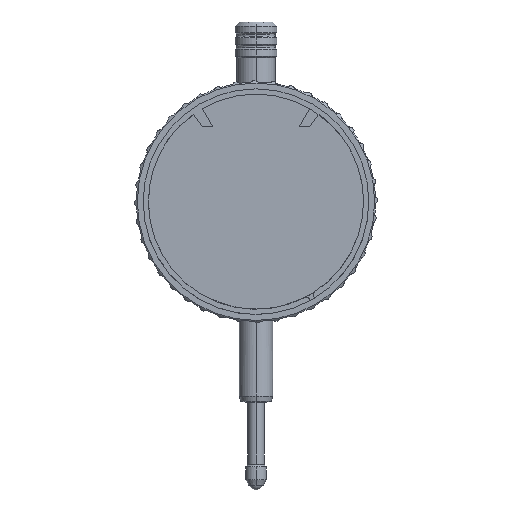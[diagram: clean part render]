
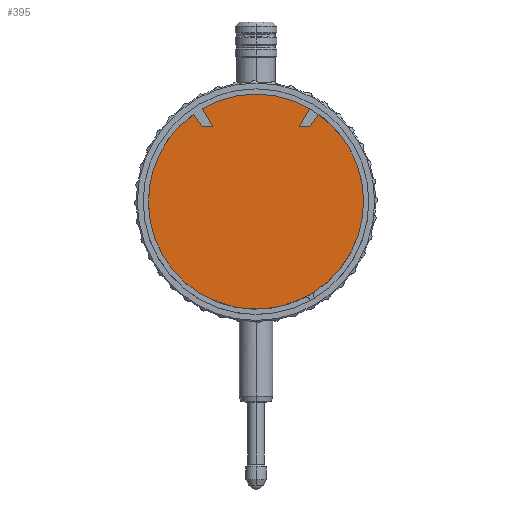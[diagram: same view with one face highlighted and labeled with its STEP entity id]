
A CAD part, front view. The second image highlights one B-rep face of the part: STEP entity #395.
In plain terms, the highlighted planar face has unit normal (0, -1, 0).
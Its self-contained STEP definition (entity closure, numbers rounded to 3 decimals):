
#395=ADVANCED_FACE('',(#1138),#1139,.F.);
#1138=FACE_OUTER_BOUND('',#1935,.T.);
#1139=PLANE('',#1936);
#1935=EDGE_LOOP('',(#5022,#5023,#5024,#5025,#5026,#5027,#5028,#5029,#5030,#5031,#5032,#5033));
#1936=AXIS2_PLACEMENT_3D('',#5034,#5035,#5036);
#5022=ORIENTED_EDGE('',*,*,#5394,.T.);
#5023=ORIENTED_EDGE('',*,*,#6353,.T.);
#5024=ORIENTED_EDGE('',*,*,#6354,.T.);
#5025=ORIENTED_EDGE('',*,*,#6355,.T.);
#5026=ORIENTED_EDGE('',*,*,#5400,.T.);
#5027=ORIENTED_EDGE('',*,*,#5402,.T.);
#5028=ORIENTED_EDGE('',*,*,#6356,.T.);
#5029=ORIENTED_EDGE('',*,*,#6357,.T.);
#5030=ORIENTED_EDGE('',*,*,#6358,.T.);
#5031=ORIENTED_EDGE('',*,*,#6359,.T.);
#5032=ORIENTED_EDGE('',*,*,#6360,.T.);
#5033=ORIENTED_EDGE('',*,*,#5404,.T.);
#5034=CARTESIAN_POINT('',(0.0,-13.8,0.));
#5035=DIRECTION('',(0.0,1.0,0.0));
#5036=DIRECTION('',(-1.0,0.0,0.0));
#5394=EDGE_CURVE('',#6612,#6609,#6613,.T.);
#5400=EDGE_CURVE('',#6618,#6622,#6624,.T.);
#5402=EDGE_CURVE('',#6622,#6625,#6628,.T.);
#5404=EDGE_CURVE('',#6630,#6612,#6631,.T.);
#6353=EDGE_CURVE('',#6609,#8195,#8196,.T.);
#6354=EDGE_CURVE('',#8195,#8197,#8198,.T.);
#6355=EDGE_CURVE('',#8197,#6618,#8199,.T.);
#6356=EDGE_CURVE('',#6625,#8200,#8201,.T.);
#6357=EDGE_CURVE('',#8200,#8202,#8203,.T.);
#6358=EDGE_CURVE('',#8202,#8204,#8205,.T.);
#6359=EDGE_CURVE('',#8204,#8206,#8207,.T.);
#6360=EDGE_CURVE('',#8206,#6630,#8208,.T.);
#6609=VERTEX_POINT('',#8409);
#6612=VERTEX_POINT('',#8413);
#6613=CIRCLE('',#8414,0.875);
#6618=VERTEX_POINT('',#8420);
#6622=VERTEX_POINT('',#8425);
#6624=CIRCLE('',#8428,0.875);
#6625=VERTEX_POINT('',#8429);
#6628=CIRCLE('',#8433,25.75);
#6630=VERTEX_POINT('',#8435);
#6631=CIRCLE('',#8436,25.75);
#8195=VERTEX_POINT('',#13673);
#8196=CIRCLE('',#13674,0.875);
#8197=VERTEX_POINT('',#13675);
#8198=CIRCLE('',#13676,27.0);
#8199=CIRCLE('',#13677,0.875);
#8200=VERTEX_POINT('',#13678);
#8201=CIRCLE('',#13679,25.75);
#8202=VERTEX_POINT('',#13680);
#8203=LINE('',#13681,#13682);
#8204=VERTEX_POINT('',#13683);
#8205=LINE('',#13684,#13685);
#8206=VERTEX_POINT('',#13686);
#8207=LINE('',#13687,#13688);
#8208=CIRCLE('',#13689,25.75);
#8409=CARTESIAN_POINT('',(-13.812,-13.8,-22.723));
#8413=CARTESIAN_POINT('',(-14.091,-13.8,-21.553));
#8414=AXIS2_PLACEMENT_3D('',#13932,#13933,#13934);
#8420=CARTESIAN_POINT('',(-12.772,-13.8,-23.323));
#8425=CARTESIAN_POINT('',(-11.62,-13.8,-22.979));
#8428=AXIS2_PLACEMENT_3D('',#13944,#13945,#13946);
#8429=CARTESIAN_POINT('',(22.3,-13.8,12.875));
#8433=AXIS2_PLACEMENT_3D('',#13948,#13949,#13950);
#8435=CARTESIAN_POINT('',(-22.3,-13.8,-12.875));
#8436=AXIS2_PLACEMENT_3D('',#13954,#13955,#13956);
#13673=CARTESIAN_POINT('',(-14.102,-13.8,-23.025));
#13674=AXIS2_PLACEMENT_3D('',#15045,#15046,#15047);
#13675=CARTESIAN_POINT('',(-12.889,-13.8,-23.725));
#13676=AXIS2_PLACEMENT_3D('',#15048,#15049,#15050);
#13677=AXIS2_PLACEMENT_3D('',#15051,#15052,#15053);
#13678=CARTESIAN_POINT('',(14.979,-13.8,20.945));
#13679=AXIS2_PLACEMENT_3D('',#15054,#15055,#15056);
#13680=CARTESIAN_POINT('',(12.821,-13.8,17.927));
#13681=CARTESIAN_POINT('',(6.95,-13.8,9.718));
#13682=VECTOR('',#15057,1.);
#13683=CARTESIAN_POINT('',(10.35,-13.8,17.927));
#13684=CARTESIAN_POINT('',(5.793,-13.8,17.927));
#13685=VECTOR('',#15058,1.0);
#13686=CARTESIAN_POINT('',(12.875,-13.8,22.3));
#13687=CARTESIAN_POINT('',(5.806,-13.8,10.057));
#13688=VECTOR('',#15059,1.);
#13689=AXIS2_PLACEMENT_3D('',#15060,#15061,#15062);
#13932=CARTESIAN_POINT('',(-14.569,-13.8,-22.285));
#13933=DIRECTION('',(0.0,1.0,0.0));
#13934=DIRECTION('',(0.866,-0.0,-0.5));
#13944=CARTESIAN_POINT('',(-12.015,-13.8,-23.76));
#13945=DIRECTION('',(0.0,1.0,0.0));
#13946=DIRECTION('',(0.866,-0.0,-0.5));
#13948=CARTESIAN_POINT('',(0.,-13.8,0.));
#13949=DIRECTION('',(0.0,-1.0,0.0));
#13950=DIRECTION('',(0.866,0.0,0.5));
#13954=CARTESIAN_POINT('',(0.,-13.8,0.));
#13955=DIRECTION('',(0.0,-1.0,0.0));
#13956=DIRECTION('',(0.866,0.0,0.5));
#15045=CARTESIAN_POINT('',(-14.569,-13.8,-22.285));
#15046=DIRECTION('',(0.0,1.0,0.0));
#15047=DIRECTION('',(0.866,-0.0,-0.5));
#15048=CARTESIAN_POINT('',(0.0,-13.8,0.));
#15049=DIRECTION('',(0.0,-1.0,0.0));
#15050=DIRECTION('',(-1.0,0.0,0.0));
#15051=CARTESIAN_POINT('',(-12.015,-13.8,-23.76));
#15052=DIRECTION('',(0.0,1.0,0.0));
#15053=DIRECTION('',(0.866,-0.0,-0.5));
#15054=CARTESIAN_POINT('',(0.,-13.8,0.));
#15055=DIRECTION('',(0.0,-1.0,0.0));
#15056=DIRECTION('',(0.866,0.0,0.5));
#15057=DIRECTION('',(-0.582,0.0,-0.813));
#15058=DIRECTION('',(-1.0,0.0,0.));
#15059=DIRECTION('',(0.5,0.0,0.866));
#15060=CARTESIAN_POINT('',(0.,-13.8,0.));
#15061=DIRECTION('',(0.0,-1.0,0.0));
#15062=DIRECTION('',(0.866,0.0,0.5));
